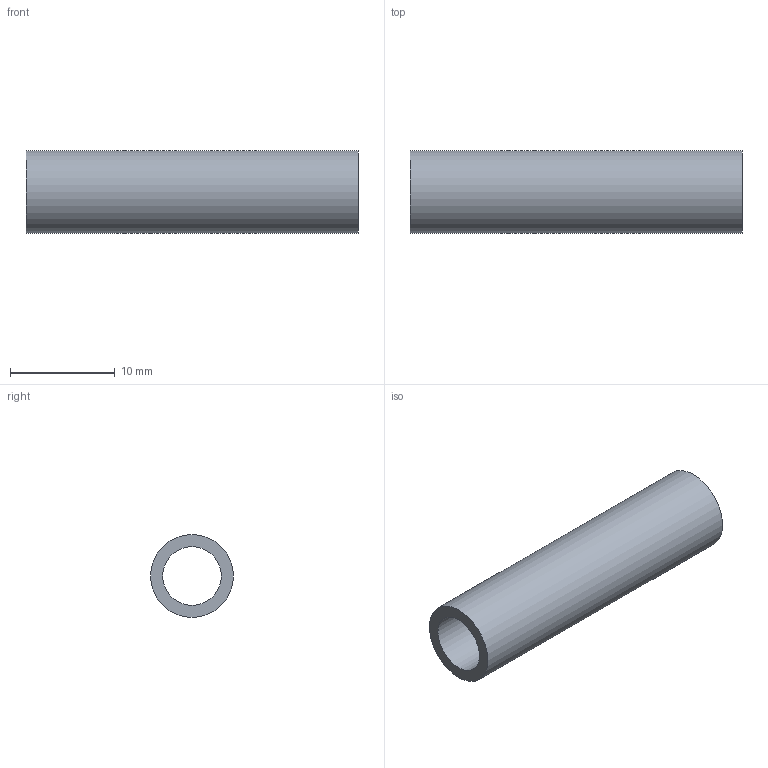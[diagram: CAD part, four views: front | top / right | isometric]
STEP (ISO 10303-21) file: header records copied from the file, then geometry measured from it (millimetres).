
FILE_DESCRIPTION(('Open CASCADE Model'),'2;1');
FILE_NAME('Open CASCADE Shape Model','2026-09-09T10:24:07',('Author'),( 'Open CASCADE'),'Open CASCADE STEP processor 7.8','Open CASCADE 7.8' ,'Unknown');
FILE_SCHEMA(('AUTOMOTIVE_DESIGN { 1 0 10303 214 1 1 1 1 }'));
Length unit declared in the file: millimetre
Products named in the file (1): Open CASCADE STEP translator 7.8 15
Bounding box: 31.67 x 7.9 x 7.9 mm (x, y, z)
Volume: 775.5 mm3; surface area: 1391 mm2
Topology: 1 solids, 1 shells, 4 faces, 6 edges, 4 vertices
Faces by surface type: cylinder 2, plane 2
Full cylindrical faces by diameter (mm): 5.588 x1, 7.899 x1
Entity records: 186 total; most frequent: DIRECTION 32, CARTESIAN_POINT 27, ORIENTED_EDGE 12, PCURVE 12, DEFINITIONAL_REPRESENTATION 12, LINE 10, VECTOR 10, AXIS2_PLACEMENT_3D 9
